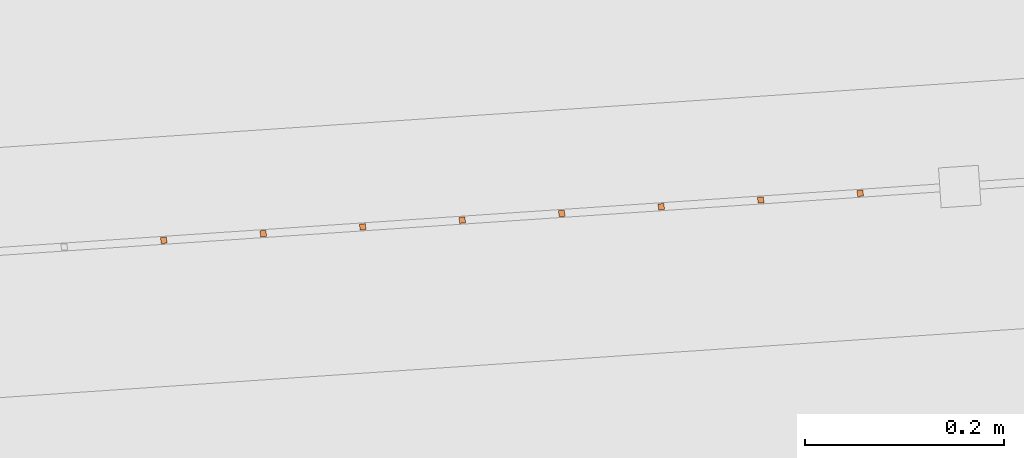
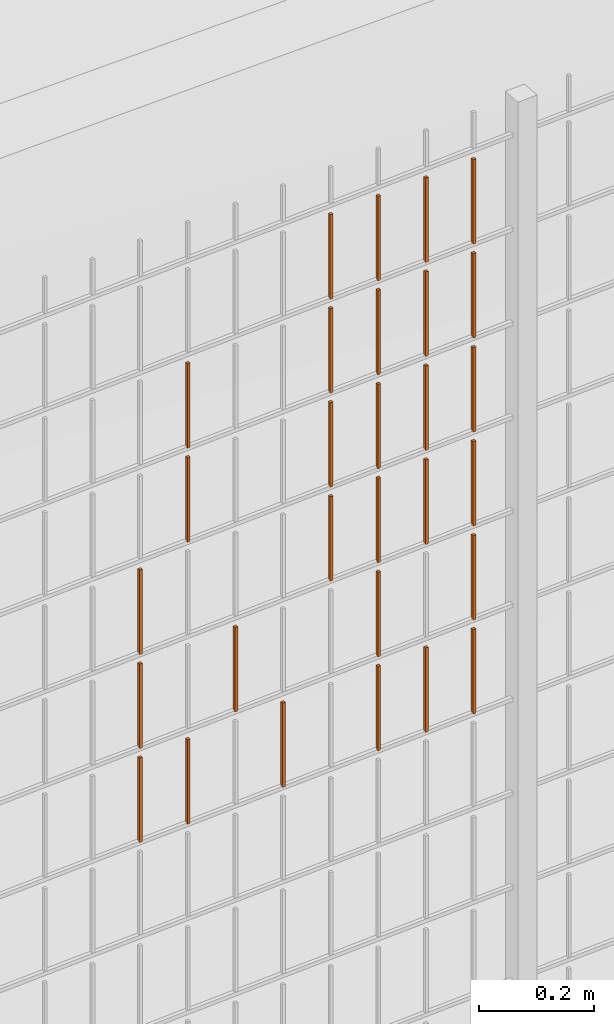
# One storey, part 365 of 1809: 29 proxies, 1 element without a shape of its own.
"""IFC2X3 building model written with IfcOpenShell, lengths in millimetres."""

from ifc_helpers import new_model, entity, si_unit, converted_unit, derived_unit, money_unit, direction, frame, origin_with_axes, place, context, subcontext, project, spatial, faceted_brep, source, transform, mapped, material, type_object, element, aggregate, save


model = new_model("IFC2X3")

# Units and contexts
model_context = context("Model", 3, precision=0.01, world=origin_with_axes(), true_north=direction((0.0, 1.0)))
body_context = subcontext(model_context, "Body", "Model", "MODEL_VIEW")
ifc_project = project(units=[si_unit("LENGTHUNIT", "METRE", prefix="MILLI"), si_unit("AREAUNIT", "SQUARE_METRE"), si_unit("VOLUMEUNIT", "CUBIC_METRE"), converted_unit("PLANEANGLEUNIT", "DEGREE", entity("IfcPlaneAngleMeasure", 0.0174532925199), si_unit("PLANEANGLEUNIT", "RADIAN"), dimensions=[0, 0, 0, 0, 0, 0, 0]), si_unit("SOLIDANGLEUNIT", "STERADIAN"), money_unit("EUR"), converted_unit("TIMEUNIT", "Year", entity("IfcTimeMeasure", 31556926.0), si_unit("TIMEUNIT", "SECOND"), dimensions=[0, 0, 1, 0, 0, 0, 0]), si_unit("MASSUNIT", "GRAM", prefix="KILO"), si_unit("THERMODYNAMICTEMPERATUREUNIT", "DEGREE_CELSIUS"), si_unit("LUMINOUSINTENSITYUNIT", "LUMEN"), si_unit("ENERGYUNIT", "JOULE", prefix="MEGA"), derived_unit("THERMALCONDUCTANCEUNIT", [(si_unit("POWERUNIT", "WATT"), 1), (si_unit("LENGTHUNIT", "METRE"), -1), (si_unit("THERMODYNAMICTEMPERATUREUNIT", "KELVIN"), -1)]), derived_unit("SPECIFICHEATCAPACITYUNIT", [(si_unit("ENERGYUNIT", "JOULE"), 1), (si_unit("MASSUNIT", "GRAM", prefix="KILO"), -1), (si_unit("THERMODYNAMICTEMPERATUREUNIT", "KELVIN"), -1)]), derived_unit("MASSDENSITYUNIT", [(si_unit("MASSUNIT", "GRAM", prefix="KILO"), 1), (si_unit("VOLUMEUNIT", "CUBIC_METRE"), -1)])], contexts=[model_context])

# Site, building, storey
site_placement = place(None, origin_with_axes())
site = spatial("IfcSite", under=ifc_project, at=site_placement, Name="Politse- ja Piirivalveameti ning Päästeameti ühishoone", CompositionType="ELEMENT")
building_placement = place(site_placement, origin_with_axes())
building = spatial("IfcBuilding", under=site, at=building_placement, Name="Politse- ja Piirivalveameti ning Päästeameti ühishoone", CompositionType="ELEMENT")
storey_placement = place(building_placement, origin_with_axes())
storey = spatial("IfcBuildingStorey", under=building, at=storey_placement, Name="Esimene korrus", CompositionType="ELEMENT", Elevation=0.0)

# Proxies
building_element_proxy_type_1 = type_object("IfcBuildingElementProxyType", Name="Railing Type", PredefinedType="NOTDEFINED")
proxy_1_placement = place(storey_placement, frame((89252.001212, -29183.4766571, 203.661247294), z_axis=(0.0, 0.0, 1.0), x_axis=(1.0, 0.0, 0.0)))
proxy_1 = element("IfcBuildingElementProxy", 1, at=proxy_1_placement, inside=storey, type_object=building_element_proxy_type_1, Name="PIIRDEAED")
ifc_material = material(Name="ET-03_Raud")
building_element_proxy_type_2 = type_object("IfcBuildingElementProxyType", Name="IfcBuildingElementProxy", PredefinedType="NOTDEFINED")
shared_shape_1 = source(origin_with_axes(), body_context, "Body", "Brep", [
    faceted_brep([(3.0, 3.0, -0.000752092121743), (-3.0, 3.0, -0.000752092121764), (-3.0, 3.0, 179.99926046), (3.0, 3.0, 179.99926046), (3.0, -3.0, 0.000752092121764), (-3.0, -3.0, 0.000752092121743), (-3.0, -3.0, 180.000764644), (3.0, -3.0, 180.000764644)], [[[0, 1, 2, 3]], [[0, 4, 5, 1]], [[1, 5, 6, 2]], [[3, 2, 6, 7]], [[4, 0, 3, 7]], [[5, 4, 7, 6]]]),
])
proxy_2_placement = place(proxy_1_placement, frame((-22974.3374905, -18849.6045571, 821.461655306), z_axis=(0.0, 0.0, 1.0), x_axis=(1.0, 0.0, 0.0)))
proxy_2 = element("IfcBuildingElementProxy", 2, at=proxy_2_placement, type_object=building_element_proxy_type_2, material=ifc_material, Name="BALUSTER - 001", context=body_context, shape_type="MappedRepresentation", body=[
    mapped(shared_shape_1, transform((0.0, 0.0, 0.0), x_axis=(-0.0673926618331, 0.997726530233, 0.0), y_axis=(-0.997726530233, -0.0673926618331, 0.0), z_axis=(0.0, 0.0, 1.0))),
])
shared_shape_2 = source(origin_with_axes(), body_context, "Body", "Brep", [
    faceted_brep([(3.0, 3.0, -0.000752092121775), (-3.0, 3.0, -0.000752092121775), (-3.0, 3.0, 179.99926046), (3.0, 3.0, 179.99926046), (3.0, -3.0, 0.000752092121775), (-3.0, -3.0, 0.000752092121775), (-3.0, -3.0, 180.000764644), (3.0, -3.0, 180.000764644)], [[[0, 1, 2, 3]], [[0, 4, 5, 1]], [[1, 5, 6, 2]], [[3, 2, 6, 7]], [[4, 0, 3, 7]], [[5, 4, 7, 6]]]),
])
proxy_3_placement = place(proxy_1_placement, frame((-22575.2468785, -18822.6474923, 821.561934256), z_axis=(0.0, 0.0, 1.0), x_axis=(1.0, 0.0, 0.0)))
proxy_3 = element("IfcBuildingElementProxy", 3, at=proxy_3_placement, type_object=building_element_proxy_type_2, material=ifc_material, Name="BALUSTER - 001", context=body_context, shape_type="MappedRepresentation", body=[
    mapped(shared_shape_2, transform((0.0, 0.0, 0.0), x_axis=(-0.0673926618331, 0.997726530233, 0.0), y_axis=(-0.997726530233, -0.0673926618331, 0.0), z_axis=(0.0, 0.0, 1.0))),
])
proxy_4_placement = place(proxy_1_placement, frame((-22575.2468785, -18822.6474923, 1821.56193426), z_axis=(0.0, 0.0, 1.0), x_axis=(1.0, 0.0, 0.0)))
proxy_4 = element("IfcBuildingElementProxy", 4, at=proxy_4_placement, type_object=building_element_proxy_type_2, material=ifc_material, Name="BALUSTER - 001", context=body_context, shape_type="MappedRepresentation", body=[
    mapped(shared_shape_2, transform((0.0, 0.0, 0.0), x_axis=(-0.0673926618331, 0.997726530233, 0.0), y_axis=(-0.997726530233, -0.0673926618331, 0.0), z_axis=(0.0, 0.0, 1.0))),
])
shared_shape_3 = source(origin_with_axes(), body_context, "Body", "Brep", [
    faceted_brep([(3.0, 3.0, -0.000752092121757), (-3.0, 3.0, -0.000752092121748), (-3.00000000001, 2.99999999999, 179.99926046), (2.99999999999, 2.99999999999, 179.99926046), (3.0, -3.0, 0.000752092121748), (-3.0, -3.0, 0.000752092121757), (-3.00000000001, -3.00000000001, 180.000764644), (2.99999999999, -3.00000000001, 180.000764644)], [[[0, 1, 2, 3]], [[0, 4, 5, 1]], [[1, 5, 6, 2]], [[3, 2, 6, 7]], [[4, 0, 3, 7]], [[5, 4, 7, 6]]]),
])
proxy_5_placement = place(proxy_1_placement, frame((-22375.7015724, -18809.16896, 1021.61207373), z_axis=(0.0, 0.0, 1.0), x_axis=(1.0, 0.0, 0.0)))
proxy_5 = element("IfcBuildingElementProxy", 5, at=proxy_5_placement, type_object=building_element_proxy_type_2, material=ifc_material, Name="BALUSTER - 001", context=body_context, shape_type="MappedRepresentation", body=[
    mapped(shared_shape_3, transform((0.0, 0.0, 0.0), x_axis=(-0.0673926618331, 0.997726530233, 0.0), y_axis=(-0.997726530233, -0.0673926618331, 0.0), z_axis=(0.0, 0.0, 1.0))),
])
shared_shape_4 = source(origin_with_axes(), body_context, "Body", "Brep", [
    faceted_brep([(3.0, 3.0, -0.000752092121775), (-3.0, 3.0, -0.000752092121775), (-3.0, 3.0, 179.99926046), (3.0, 3.0, 179.99926046), (3.0, -3.0, 0.000752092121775), (-3.0, -3.0, 0.000752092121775), (-3.0, -3.0, 180.000764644), (3.0, -3.0, 180.000764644)], [[[0, 1, 2, 3]], [[0, 4, 5, 1]], [[1, 5, 6, 2]], [[3, 2, 6, 7]], [[4, 0, 3, 7]], [[5, 4, 7, 6]]]),
])
proxy_6_placement = place(proxy_1_placement, frame((-22575.2468785, -18822.6474923, 1221.56193426), z_axis=(0.0, 0.0, 1.0), x_axis=(1.0, 0.0, 0.0)))
proxy_6 = element("IfcBuildingElementProxy", 6, at=proxy_6_placement, type_object=building_element_proxy_type_2, material=ifc_material, Name="BALUSTER - 001", context=body_context, shape_type="MappedRepresentation", body=[
    mapped(shared_shape_4, transform((0.0, 0.0, 0.0), x_axis=(-0.0673926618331, 0.997726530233, 0.0), y_axis=(-0.997726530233, -0.0673926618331, 0.0), z_axis=(0.0, 0.0, 1.0))),
])
shared_shape_5 = source(origin_with_axes(), body_context, "Body", "Brep", [
    faceted_brep([(3.0, 3.0, -0.000752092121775), (-3.0, 3.0, -0.000752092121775), (-3.0, 3.0, 179.99926046), (3.0, 3.0, 179.99926046), (3.0, -3.0, 0.000752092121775), (-3.0, -3.0, 0.000752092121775), (-3.0, -3.0, 180.000764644), (3.0, -3.0, 180.000764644)], [[[0, 1, 2, 3]], [[0, 4, 5, 1]], [[1, 5, 6, 2]], [[3, 2, 6, 7]], [[4, 0, 3, 7]], [[5, 4, 7, 6]]]),
])
proxy_7_placement = place(proxy_1_placement, frame((-22575.2468785, -18822.6474923, 1421.56193426), z_axis=(0.0, 0.0, 1.0), x_axis=(1.0, 0.0, 0.0)))
proxy_7 = element("IfcBuildingElementProxy", 7, at=proxy_7_placement, type_object=building_element_proxy_type_2, material=ifc_material, Name="BALUSTER - 001", context=body_context, shape_type="MappedRepresentation", body=[
    mapped(shared_shape_5, transform((0.0, 0.0, 0.0), x_axis=(-0.0673926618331, 0.997726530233, 0.0), y_axis=(-0.997726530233, -0.0673926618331, 0.0), z_axis=(0.0, 0.0, 1.0))),
])
proxy_8_placement = place(proxy_1_placement, frame((-22575.2468785, -18822.6474923, 1621.56193426), z_axis=(0.0, 0.0, 1.0), x_axis=(1.0, 0.0, 0.0)))
proxy_8 = element("IfcBuildingElementProxy", 8, at=proxy_8_placement, type_object=building_element_proxy_type_2, material=ifc_material, Name="BALUSTER - 001", context=body_context, shape_type="MappedRepresentation", body=[
    mapped(shared_shape_5, transform((0.0, 0.0, 0.0), x_axis=(-0.0673926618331, 0.997726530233, 0.0), y_axis=(-0.997726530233, -0.0673926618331, 0.0), z_axis=(0.0, 0.0, 1.0))),
])
shared_shape_6 = source(origin_with_axes(), body_context, "Body", "Brep", [
    faceted_brep([(3.0, 3.0, -0.000752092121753), (-3.0, 3.0, -0.000752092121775), (-3.0, 3.0, 179.99926046), (3.0, 3.0, 179.99926046), (3.0, -3.0, 0.000752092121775), (-3.0, -3.0, 0.000752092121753), (-3.0, -3.0, 180.000764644), (3.0, -3.0, 180.000764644)], [[[0, 1, 2, 3]], [[0, 4, 5, 1]], [[1, 5, 6, 2]], [[3, 2, 6, 7]], [[4, 0, 3, 7]], [[5, 4, 7, 6]]]),
])
proxy_9_placement = place(proxy_1_placement, frame((-22375.7015724, -18809.16896, 1421.61207373), z_axis=(0.0, 0.0, 1.0), x_axis=(1.0, 0.0, 0.0)))
proxy_9 = element("IfcBuildingElementProxy", 9, at=proxy_9_placement, type_object=building_element_proxy_type_2, material=ifc_material, Name="BALUSTER - 001", context=body_context, shape_type="MappedRepresentation", body=[
    mapped(shared_shape_6, transform((0.0, 0.0, 0.0), x_axis=(-0.0673926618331, 0.997726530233, 0.0), y_axis=(-0.997726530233, -0.0673926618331, 0.0), z_axis=(0.0, 0.0, 1.0))),
])
shared_shape_7 = source(origin_with_axes(), body_context, "Body", "Brep", [
    faceted_brep([(3.0, 3.0, -0.000752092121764), (-3.0, 3.0, -0.000752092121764), (-3.0, 3.0, 179.99926046), (3.0, 3.0, 179.99926046), (3.0, -3.0, 0.000752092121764), (-3.0, -3.0, 0.000752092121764), (-3.0, -3.0, 180.000764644), (3.0, -3.0, 180.000764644)], [[[0, 1, 2, 3]], [[0, 4, 5, 1]], [[1, 5, 6, 2]], [[3, 2, 6, 7]], [[4, 0, 3, 7]], [[5, 4, 7, 6]]]),
])
proxy_10_placement = place(proxy_1_placement, frame((-22475.4742254, -18815.9082262, 1421.58700399), z_axis=(0.0, 0.0, 1.0), x_axis=(1.0, 0.0, 0.0)))
proxy_10 = element("IfcBuildingElementProxy", 10, at=proxy_10_placement, type_object=building_element_proxy_type_2, material=ifc_material, Name="BALUSTER - 001", context=body_context, shape_type="MappedRepresentation", body=[
    mapped(shared_shape_7, transform((0.0, 0.0, 0.0), x_axis=(-0.0673926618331, 0.997726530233, 0.0), y_axis=(-0.997726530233, -0.0673926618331, 0.0), z_axis=(0.0, 0.0, 1.0))),
])
shared_shape_8 = source(origin_with_axes(), body_context, "Body", "Brep", [
    faceted_brep([(3.0, 3.0, -0.000752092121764), (-3.0, 3.0, -0.000752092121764), (-3.0, 3.0, 179.99926046), (3.0, 3.0, 179.99926046), (3.0, -3.0, 0.000752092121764), (-3.0, -3.0, 0.000752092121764), (-3.0, -3.0, 180.000764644), (3.0, -3.0, 180.000764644)], [[[0, 1, 2, 3]], [[0, 4, 5, 1]], [[1, 5, 6, 2]], [[3, 2, 6, 7]], [[4, 0, 3, 7]], [[5, 4, 7, 6]]]),
])
proxy_11_placement = place(proxy_1_placement, frame((-22475.4742254, -18815.9082262, 1821.58700399), z_axis=(0.0, 0.0, 1.0), x_axis=(1.0, 0.0, 0.0)))
proxy_11 = element("IfcBuildingElementProxy", 11, at=proxy_11_placement, type_object=building_element_proxy_type_2, material=ifc_material, Name="BALUSTER - 001", context=body_context, shape_type="MappedRepresentation", body=[
    mapped(shared_shape_8, transform((0.0, 0.0, 0.0), x_axis=(-0.0673926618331, 0.997726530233, 0.0), y_axis=(-0.997726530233, -0.0673926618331, 0.0), z_axis=(0.0, 0.0, 1.0))),
])
shared_shape_9 = source(origin_with_axes(), body_context, "Body", "Brep", [
    faceted_brep([(3.0, 3.0, -0.000752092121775), (-3.0, 3.0, -0.000752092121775), (-3.0, 3.0, 179.99926046), (3.0, 3.0, 179.99926046), (3.0, -3.0, 0.000752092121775), (-3.0, -3.0, 0.000752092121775), (-3.0, -3.0, 180.000764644), (3.0, -3.0, 180.000764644)], [[[0, 1, 2, 3]], [[0, 4, 5, 1]], [[1, 5, 6, 2]], [[3, 2, 6, 7]], [[4, 0, 3, 7]], [[5, 4, 7, 6]]]),
])
proxy_12_placement = place(proxy_1_placement, frame((-22774.7921845, -18836.1260247, 821.511794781), z_axis=(0.0, 0.0, 1.0), x_axis=(1.0, 0.0, 0.0)))
proxy_12 = element("IfcBuildingElementProxy", 12, at=proxy_12_placement, type_object=building_element_proxy_type_2, material=ifc_material, Name="BALUSTER - 001", context=body_context, shape_type="MappedRepresentation", body=[
    mapped(shared_shape_9, transform((0.0, 0.0, 0.0), x_axis=(-0.0673926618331, 0.997726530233, 0.0), y_axis=(-0.997726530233, -0.0673926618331, 0.0), z_axis=(0.0, 0.0, 1.0))),
])
shared_shape_10 = source(origin_with_axes(), body_context, "Body", "Brep", [
    faceted_brep([(3.0, 3.0, -0.000752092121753), (-3.0, 3.0, -0.000752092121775), (-3.0, 3.0, 179.99926046), (3.0, 3.0, 179.99926046), (3.0, -3.0, 0.000752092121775), (-3.0, -3.0, 0.000752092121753), (-3.0, -3.0, 180.000764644), (3.0, -3.0, 180.000764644)], [[[0, 1, 2, 3]], [[0, 4, 5, 1]], [[1, 5, 6, 2]], [[3, 2, 6, 7]], [[4, 0, 3, 7]], [[5, 4, 7, 6]]]),
])
proxy_13_placement = place(proxy_1_placement, frame((-22375.7015724, -18809.16896, 1621.61207373), z_axis=(0.0, 0.0, 1.0), x_axis=(1.0, 0.0, 0.0)))
proxy_13 = element("IfcBuildingElementProxy", 13, at=proxy_13_placement, type_object=building_element_proxy_type_2, material=ifc_material, Name="BALUSTER - 001", context=body_context, shape_type="MappedRepresentation", body=[
    mapped(shared_shape_10, transform((0.0, 0.0, 0.0), x_axis=(-0.0673926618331, 0.997726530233, 0.0), y_axis=(-0.997726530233, -0.0673926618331, 0.0), z_axis=(0.0, 0.0, 1.0))),
])
shared_shape_11 = source(origin_with_axes(), body_context, "Body", "Brep", [
    faceted_brep([(3.0, 3.0, -0.000752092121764), (-3.0, 3.0, -0.000752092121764), (-3.0, 3.0, 179.99926046), (3.0, 3.0, 179.99926046), (3.0, -3.0, 0.000752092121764), (-3.0, -3.0, 0.000752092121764), (-3.0, -3.0, 180.000764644), (3.0, -3.0, 180.000764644)], [[[0, 1, 2, 3]], [[0, 4, 5, 1]], [[1, 5, 6, 2]], [[3, 2, 6, 7]], [[4, 0, 3, 7]], [[5, 4, 7, 6]]]),
])
proxy_14_placement = place(proxy_1_placement, frame((-22475.4742254, -18815.9082262, 821.587003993), z_axis=(0.0, 0.0, 1.0), x_axis=(1.0, 0.0, 0.0)))
proxy_14 = element("IfcBuildingElementProxy", 14, at=proxy_14_placement, type_object=building_element_proxy_type_2, material=ifc_material, Name="BALUSTER - 001", context=body_context, shape_type="MappedRepresentation", body=[
    mapped(shared_shape_11, transform((0.0, 0.0, 0.0), x_axis=(-0.0673926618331, 0.997726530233, 0.0), y_axis=(-0.997726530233, -0.0673926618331, 0.0), z_axis=(0.0, 0.0, 1.0))),
])
proxy_15_placement = place(proxy_1_placement, frame((-22475.4742254, -18815.9082262, 1221.58700399), z_axis=(0.0, 0.0, 1.0), x_axis=(1.0, 0.0, 0.0)))
proxy_15 = element("IfcBuildingElementProxy", 15, at=proxy_15_placement, type_object=building_element_proxy_type_2, material=ifc_material, Name="BALUSTER - 001", context=body_context, shape_type="MappedRepresentation", body=[
    mapped(shared_shape_11, transform((0.0, 0.0, 0.0), x_axis=(-0.0673926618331, 0.997726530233, 0.0), y_axis=(-0.997726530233, -0.0673926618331, 0.0), z_axis=(0.0, 0.0, 1.0))),
])
shared_shape_12 = source(origin_with_axes(), body_context, "Body", "Brep", [
    faceted_brep([(3.0, 3.0, -0.000752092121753), (-3.0, 3.0, -0.000752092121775), (-3.0, 3.0, 179.99926046), (3.0, 3.0, 179.99926046), (3.0, -3.0, 0.000752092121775), (-3.0, -3.0, 0.000752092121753), (-3.0, -3.0, 180.000764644), (3.0, -3.0, 180.000764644)], [[[0, 1, 2, 3]], [[0, 4, 5, 1]], [[1, 5, 6, 2]], [[3, 2, 6, 7]], [[4, 0, 3, 7]], [[5, 4, 7, 6]]]),
])
proxy_16_placement = place(proxy_1_placement, frame((-22375.7015724, -18809.16896, 821.612073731), z_axis=(0.0, 0.0, 1.0), x_axis=(1.0, 0.0, 0.0)))
proxy_16 = element("IfcBuildingElementProxy", 16, at=proxy_16_placement, type_object=building_element_proxy_type_2, material=ifc_material, Name="BALUSTER - 001", context=body_context, shape_type="MappedRepresentation", body=[
    mapped(shared_shape_12, transform((0.0, 0.0, 0.0), x_axis=(-0.0673926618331, 0.997726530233, 0.0), y_axis=(-0.997726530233, -0.0673926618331, 0.0), z_axis=(0.0, 0.0, 1.0))),
])
proxy_17_placement = place(proxy_1_placement, frame((-22375.7015724, -18809.16896, 1221.61207373), z_axis=(0.0, 0.0, 1.0), x_axis=(1.0, 0.0, 0.0)))
proxy_17 = element("IfcBuildingElementProxy", 17, at=proxy_17_placement, type_object=building_element_proxy_type_2, material=ifc_material, Name="BALUSTER - 001", context=body_context, shape_type="MappedRepresentation", body=[
    mapped(shared_shape_12, transform((0.0, 0.0, 0.0), x_axis=(-0.0673926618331, 0.997726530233, 0.0), y_axis=(-0.997726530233, -0.0673926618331, 0.0), z_axis=(0.0, 0.0, 1.0))),
])
shared_shape_13 = source(origin_with_axes(), body_context, "Body", "Brep", [
    faceted_brep([(3.0, 3.0, -0.000752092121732), (-3.0, 3.0, -0.000752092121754), (-3.0, 3.0, 179.99926046), (3.0, 3.0, 179.99926046), (3.0, -3.0, 0.000752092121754), (-3.0, -3.0, 0.000752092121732), (-3.0, -3.0, 180.000764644), (3.0, -3.0, 180.000764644)], [[[0, 1, 2, 3]], [[0, 4, 5, 1]], [[1, 5, 6, 2]], [[3, 2, 6, 7]], [[4, 0, 3, 7]], [[5, 4, 7, 6]]]),
])
proxy_18_placement = place(proxy_1_placement, frame((-23074.1101436, -18856.3438233, 821.436585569), z_axis=(0.0, 0.0, 1.0), x_axis=(1.0, 0.0, 0.0)))
proxy_18 = element("IfcBuildingElementProxy", 18, at=proxy_18_placement, type_object=building_element_proxy_type_2, material=ifc_material, Name="BALUSTER - 001", context=body_context, shape_type="MappedRepresentation", body=[
    mapped(shared_shape_13, transform((0.0, 0.0, 0.0), x_axis=(-0.0673926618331, 0.997726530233, 0.0), y_axis=(-0.997726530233, -0.0673926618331, 0.0), z_axis=(0.0, 0.0, 1.0))),
])
proxy_19_placement = place(proxy_1_placement, frame((-23074.1101436, -18856.3438233, 1221.43658557), z_axis=(0.0, 0.0, 1.0), x_axis=(1.0, 0.0, 0.0)))
proxy_19 = element("IfcBuildingElementProxy", 19, at=proxy_19_placement, type_object=building_element_proxy_type_2, material=ifc_material, Name="BALUSTER - 001", context=body_context, shape_type="MappedRepresentation", body=[
    mapped(shared_shape_13, transform((0.0, 0.0, 0.0), x_axis=(-0.0673926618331, 0.997726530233, 0.0), y_axis=(-0.997726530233, -0.0673926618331, 0.0), z_axis=(0.0, 0.0, 1.0))),
])
shared_shape_14 = source(origin_with_axes(), body_context, "Body", "Brep", [
    faceted_brep([(3.0, 3.0, -0.000752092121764), (-3.0, 3.0, -0.000752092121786), (-3.0, 3.0, 179.99926046), (3.0, 3.0, 179.99926046), (3.0, -3.0, 0.000752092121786), (-3.0, -3.0, 0.000752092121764), (-3.0, -3.0, 180.000764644), (3.0, -3.0, 180.000764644)], [[[0, 1, 2, 3]], [[0, 4, 5, 1]], [[1, 5, 6, 2]], [[3, 2, 6, 7]], [[4, 0, 3, 7]], [[5, 4, 7, 6]]]),
])
proxy_20_placement = place(proxy_1_placement, frame((-22675.0195315, -18829.3867585, 1821.53686452), z_axis=(0.0, 0.0, 1.0), x_axis=(1.0, 0.0, 0.0)))
proxy_20 = element("IfcBuildingElementProxy", 20, at=proxy_20_placement, type_object=building_element_proxy_type_2, material=ifc_material, Name="BALUSTER - 001", context=body_context, shape_type="MappedRepresentation", body=[
    mapped(shared_shape_14, transform((0.0, 0.0, 0.0), x_axis=(-0.0673926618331, 0.997726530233, 0.0), y_axis=(-0.997726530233, -0.0673926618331, 0.0), z_axis=(0.0, 0.0, 1.0))),
])
shared_shape_15 = source(origin_with_axes(), body_context, "Body", "Brep", [
    faceted_brep([(3.0, 3.0, -0.000752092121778), (-3.0, 3.0, -0.000752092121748), (-3.00000000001, 2.99999999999, 179.99926046), (2.99999999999, 2.99999999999, 179.99926046), (3.0, -3.0, 0.000752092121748), (-3.0, -3.0, 0.000752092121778), (-3.00000000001, -3.00000000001, 180.000764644), (2.99999999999, -3.00000000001, 180.000764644)], [[[0, 1, 2, 3]], [[0, 4, 5, 1]], [[1, 5, 6, 2]], [[3, 2, 6, 7]], [[4, 0, 3, 7]], [[5, 4, 7, 6]]]),
])
proxy_21_placement = place(proxy_1_placement, frame((-22575.2468785, -18822.6474923, 1021.56193426), z_axis=(0.0, 0.0, 1.0), x_axis=(1.0, 0.0, 0.0)))
proxy_21 = element("IfcBuildingElementProxy", 21, at=proxy_21_placement, type_object=building_element_proxy_type_2, material=ifc_material, Name="BALUSTER - 001", context=body_context, shape_type="MappedRepresentation", body=[
    mapped(shared_shape_15, transform((0.0, 0.0, 0.0), x_axis=(-0.0673926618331, 0.997726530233, 0.0), y_axis=(-0.997726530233, -0.0673926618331, 0.0), z_axis=(0.0, 0.0, 1.0))),
])
shared_shape_16 = source(origin_with_axes(), body_context, "Body", "Brep", [
    faceted_brep([(3.0, 3.0, -0.000752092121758), (-3.0, 3.0, -0.00075209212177), (-3.00000000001, 3.0, 179.99926046), (2.99999999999, 3.0, 179.99926046), (3.0, -3.0, 0.00075209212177), (-3.0, -3.0, 0.000752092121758), (-3.00000000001, -3.0, 180.000764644), (2.99999999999, -3.0, 180.000764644)], [[[0, 1, 2, 3]], [[0, 4, 5, 1]], [[1, 5, 6, 2]], [[3, 2, 6, 7]], [[4, 0, 3, 7]], [[5, 4, 7, 6]]]),
])
proxy_22_placement = place(proxy_1_placement, frame((-22874.5648375, -18842.8652909, 1021.48672504), z_axis=(0.0, 0.0, 1.0), x_axis=(1.0, 0.0, 0.0)))
proxy_22 = element("IfcBuildingElementProxy", 22, at=proxy_22_placement, type_object=building_element_proxy_type_2, material=ifc_material, Name="BALUSTER - 001", context=body_context, shape_type="MappedRepresentation", body=[
    mapped(shared_shape_16, transform((0.0, 0.0, 0.0), x_axis=(-0.0673926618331, 0.997726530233, 0.0), y_axis=(-0.997726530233, -0.0673926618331, 0.0), z_axis=(0.0, 0.0, 1.0))),
])
shared_shape_17 = source(origin_with_axes(), body_context, "Body", "Brep", [
    faceted_brep([(3.0, 3.0, -0.000752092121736), (-3.0, 3.0, -0.000752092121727), (-3.00000000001, 2.99999999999, 179.99926046), (2.99999999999, 2.99999999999, 179.99926046), (3.0, -3.0, 0.000752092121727), (-3.0, -3.0, 0.000752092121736), (-3.00000000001, -3.00000000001, 180.000764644), (2.99999999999, -3.00000000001, 180.000764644)], [[[0, 1, 2, 3]], [[0, 4, 5, 1]], [[1, 5, 6, 2]], [[3, 2, 6, 7]], [[4, 0, 3, 7]], [[5, 4, 7, 6]]]),
])
proxy_23_placement = place(proxy_1_placement, frame((-23074.1101436, -18856.3438233, 1021.43658557), z_axis=(0.0, 0.0, 1.0), x_axis=(1.0, 0.0, 0.0)))
proxy_23 = element("IfcBuildingElementProxy", 23, at=proxy_23_placement, type_object=building_element_proxy_type_2, material=ifc_material, Name="BALUSTER - 001", context=body_context, shape_type="MappedRepresentation", body=[
    mapped(shared_shape_17, transform((0.0, 0.0, 0.0), x_axis=(-0.0673926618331, 0.997726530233, 0.0), y_axis=(-0.997726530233, -0.0673926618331, 0.0), z_axis=(0.0, 0.0, 1.0))),
])
shared_shape_18 = source(origin_with_axes(), body_context, "Body", "Brep", [
    faceted_brep([(3.0, 3.0, -0.000752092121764), (-3.0, 3.0, -0.000752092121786), (-3.0, 3.0, 179.99926046), (3.0, 3.0, 179.99926046), (3.0, -3.0, 0.000752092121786), (-3.0, -3.0, 0.000752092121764), (-3.0, -3.0, 180.000764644), (3.0, -3.0, 180.000764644)], [[[0, 1, 2, 3]], [[0, 4, 5, 1]], [[1, 5, 6, 2]], [[3, 2, 6, 7]], [[4, 0, 3, 7]], [[5, 4, 7, 6]]]),
])
proxy_24_placement = place(proxy_1_placement, frame((-22675.0195315, -18829.3867585, 1221.53686452), z_axis=(0.0, 0.0, 1.0), x_axis=(1.0, 0.0, 0.0)))
proxy_24 = element("IfcBuildingElementProxy", 24, at=proxy_24_placement, type_object=building_element_proxy_type_2, material=ifc_material, Name="BALUSTER - 001", context=body_context, shape_type="MappedRepresentation", body=[
    mapped(shared_shape_18, transform((0.0, 0.0, 0.0), x_axis=(-0.0673926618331, 0.997726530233, 0.0), y_axis=(-0.997726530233, -0.0673926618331, 0.0), z_axis=(0.0, 0.0, 1.0))),
])
shared_shape_19 = source(origin_with_axes(), body_context, "Body", "Brep", [
    faceted_brep([(3.0, 3.0, -0.000752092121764), (-3.0, 3.0, -0.000752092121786), (-3.0, 3.0, 179.99926046), (3.0, 3.0, 179.99926046), (3.0, -3.0, 0.000752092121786), (-3.0, -3.0, 0.000752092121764), (-3.0, -3.0, 180.000764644), (3.0, -3.0, 180.000764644)], [[[0, 1, 2, 3]], [[0, 4, 5, 1]], [[1, 5, 6, 2]], [[3, 2, 6, 7]], [[4, 0, 3, 7]], [[5, 4, 7, 6]]]),
])
proxy_25_placement = place(proxy_1_placement, frame((-22675.0195315, -18829.3867585, 1421.53686452), z_axis=(0.0, 0.0, 1.0), x_axis=(1.0, 0.0, 0.0)))
proxy_25 = element("IfcBuildingElementProxy", 25, at=proxy_25_placement, type_object=building_element_proxy_type_2, material=ifc_material, Name="BALUSTER - 001", context=body_context, shape_type="MappedRepresentation", body=[
    mapped(shared_shape_19, transform((0.0, 0.0, 0.0), x_axis=(-0.0673926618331, 0.997726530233, 0.0), y_axis=(-0.997726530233, -0.0673926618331, 0.0), z_axis=(0.0, 0.0, 1.0))),
])
proxy_26_placement = place(proxy_1_placement, frame((-22675.0195315, -18829.3867585, 1621.53686452), z_axis=(0.0, 0.0, 1.0), x_axis=(1.0, 0.0, 0.0)))
proxy_26 = element("IfcBuildingElementProxy", 26, at=proxy_26_placement, type_object=building_element_proxy_type_2, material=ifc_material, Name="BALUSTER - 001", context=body_context, shape_type="MappedRepresentation", body=[
    mapped(shared_shape_19, transform((0.0, 0.0, 0.0), x_axis=(-0.0673926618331, 0.997726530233, 0.0), y_axis=(-0.997726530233, -0.0673926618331, 0.0), z_axis=(0.0, 0.0, 1.0))),
])
shared_shape_20 = source(origin_with_axes(), body_context, "Body", "Brep", [
    faceted_brep([(3.0, 3.0, -0.000752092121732), (-3.0, 3.0, -0.000752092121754), (-3.0, 3.0, 179.99926046), (3.0, 3.0, 179.99926046), (3.0, -3.0, 0.000752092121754), (-3.0, -3.0, 0.000752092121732), (-3.0, -3.0, 180.000764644), (3.0, -3.0, 180.000764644)], [[[0, 1, 2, 3]], [[0, 4, 5, 1]], [[1, 5, 6, 2]], [[3, 2, 6, 7]], [[4, 0, 3, 7]], [[5, 4, 7, 6]]]),
])
proxy_27_placement = place(proxy_1_placement, frame((-22974.3374905, -18849.6045571, 1421.46165531), z_axis=(0.0, 0.0, 1.0), x_axis=(1.0, 0.0, 0.0)))
proxy_27 = element("IfcBuildingElementProxy", 27, at=proxy_27_placement, type_object=building_element_proxy_type_2, material=ifc_material, Name="BALUSTER - 001", context=body_context, shape_type="MappedRepresentation", body=[
    mapped(shared_shape_20, transform((0.0, 0.0, 0.0), x_axis=(-0.0673926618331, 0.997726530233, 0.0), y_axis=(-0.997726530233, -0.0673926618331, 0.0), z_axis=(0.0, 0.0, 1.0))),
])
proxy_28_placement = place(proxy_1_placement, frame((-22974.3374905, -18849.6045571, 1621.46165531), z_axis=(0.0, 0.0, 1.0), x_axis=(1.0, 0.0, 0.0)))
proxy_28 = element("IfcBuildingElementProxy", 28, at=proxy_28_placement, type_object=building_element_proxy_type_2, material=ifc_material, Name="BALUSTER - 001", context=body_context, shape_type="MappedRepresentation", body=[
    mapped(shared_shape_20, transform((0.0, 0.0, 0.0), x_axis=(-0.0673926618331, 0.997726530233, 0.0), y_axis=(-0.997726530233, -0.0673926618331, 0.0), z_axis=(0.0, 0.0, 1.0))),
])
shared_shape_21 = source(origin_with_axes(), body_context, "Body", "Brep", [
    faceted_brep([(3.0, 3.0, -0.000752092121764), (-3.0, 3.0, -0.000752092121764), (-3.0, 3.0, 179.99926046), (3.0, 3.0, 179.99926046), (3.0, -3.0, 0.000752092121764), (-3.0, -3.0, 0.000752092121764), (-3.0, -3.0, 180.000764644), (3.0, -3.0, 180.000764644)], [[[0, 1, 2, 3]], [[0, 4, 5, 1]], [[1, 5, 6, 2]], [[3, 2, 6, 7]], [[4, 0, 3, 7]], [[5, 4, 7, 6]]]),
])
proxy_29_placement = place(proxy_1_placement, frame((-22475.4742254, -18815.9082262, 1621.58700399), z_axis=(0.0, 0.0, 1.0), x_axis=(1.0, 0.0, 0.0)))
proxy_29 = element("IfcBuildingElementProxy", 29, at=proxy_29_placement, type_object=building_element_proxy_type_2, material=ifc_material, Name="BALUSTER - 001", context=body_context, shape_type="MappedRepresentation", body=[
    mapped(shared_shape_21, transform((0.0, 0.0, 0.0), x_axis=(-0.0673926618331, 0.997726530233, 0.0), y_axis=(-0.997726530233, -0.0673926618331, 0.0), z_axis=(0.0, 0.0, 1.0))),
])
shared_shape_22 = source(origin_with_axes(), body_context, "Body", "Brep", [
    faceted_brep([(3.0, 3.0, -0.000752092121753), (-3.0, 3.0, -0.000752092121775), (-3.0, 3.0, 179.99926046), (3.0, 3.0, 179.99926046), (3.0, -3.0, 0.000752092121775), (-3.0, -3.0, 0.000752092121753), (-3.0, -3.0, 180.000764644), (3.0, -3.0, 180.000764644)], [[[0, 1, 2, 3]], [[0, 4, 5, 1]], [[1, 5, 6, 2]], [[3, 2, 6, 7]], [[4, 0, 3, 7]], [[5, 4, 7, 6]]]),
])
proxy_30_placement = place(proxy_1_placement, frame((-22375.7015724, -18809.16896, 1821.61207373), z_axis=(0.0, 0.0, 1.0), x_axis=(1.0, 0.0, 0.0)))
proxy_30 = element("IfcBuildingElementProxy", 30, at=proxy_30_placement, type_object=building_element_proxy_type_2, material=ifc_material, Name="BALUSTER - 001", context=body_context, shape_type="MappedRepresentation", body=[
    mapped(shared_shape_22, transform((0.0, 0.0, 0.0), x_axis=(-0.0673926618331, 0.997726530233, 0.0), y_axis=(-0.997726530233, -0.0673926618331, 0.0), z_axis=(0.0, 0.0, 1.0))),
])
aggregate(proxy_1, [proxy_16, proxy_14, proxy_3, proxy_12, proxy_2, proxy_18, proxy_5, proxy_21, proxy_22, proxy_23, proxy_17, proxy_15, proxy_6, proxy_24, proxy_19, proxy_9, proxy_10, proxy_7, proxy_25, proxy_27, proxy_13, proxy_29, proxy_8, proxy_26, proxy_28, proxy_30, proxy_11, proxy_4, proxy_20])

save(model, "model.ifc")
